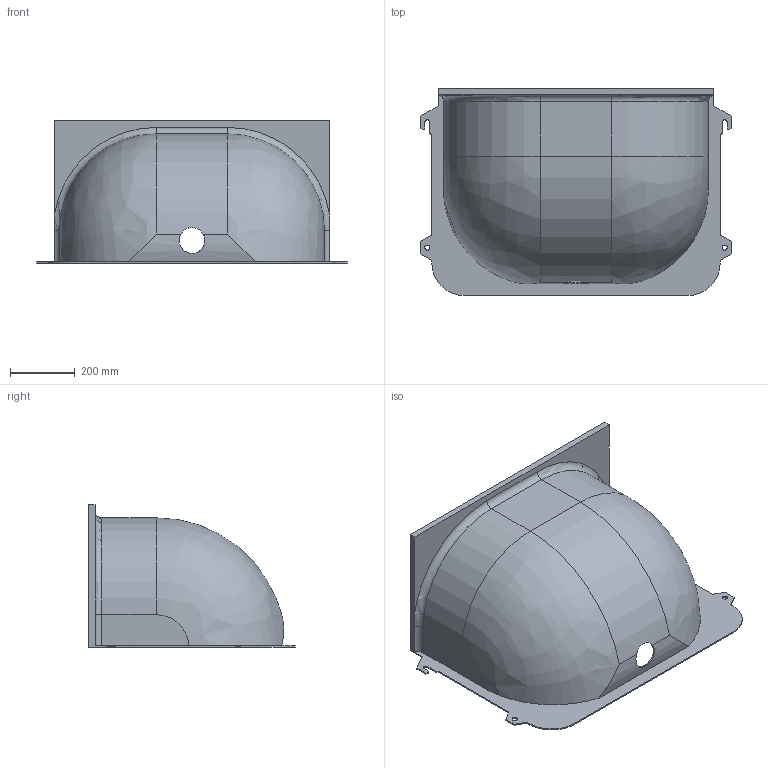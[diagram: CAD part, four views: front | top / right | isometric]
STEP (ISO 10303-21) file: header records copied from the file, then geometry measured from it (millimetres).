
FILE_DESCRIPTION(/* description */ (''),/* implementation_level */ '2;1');
FILE_NAME(/* name */ 'Q:\sge-bs-neu-2008\Marketing\CAD Zeichnungen\3D-CAD-Daten\3D Daten Website\- MEA Multinorm Kunststofflichtschacht\Step\Multinorm_80x60x40.stp',/* time_stamp */ '2019-02-14T11:02:30+01:00',/* author */ ('avgrahammj'),/* organization */ (''),/* preprocessor_version */ 'ST-DEVELOPER v16.1',/* originating_system */ 'Autodesk Inventor 2016',/* authorisation */ '');
FILE_SCHEMA (('AUTOMOTIVE_DESIGN { 1 0 10303 214 3 1 1 }'));
Length unit declared in the file: millimetre
Products named in the file (1): Multinorm_80x60x40
Bounding box: 962 x 640 x 440 mm (x, y, z)
Volume: 4204015.2 mm3; surface area: 2120111.7 mm2
Topology: 1 solids, 1 shells, 73 faces, 205 edges, 132 vertices
Faces by surface type: plane 40, cylinder 23, bspline 6, torus 4
Full cylindrical faces by diameter (mm): 16 x2, 80 x1
Entity records: 2632 total; most frequent: CARTESIAN_POINT 728, ORIENTED_EDGE 404, DIRECTION 378, EDGE_CURVE 202, LINE 134, VECTOR 134, VERTEX_POINT 132, AXIS2_PLACEMENT_3D 122
